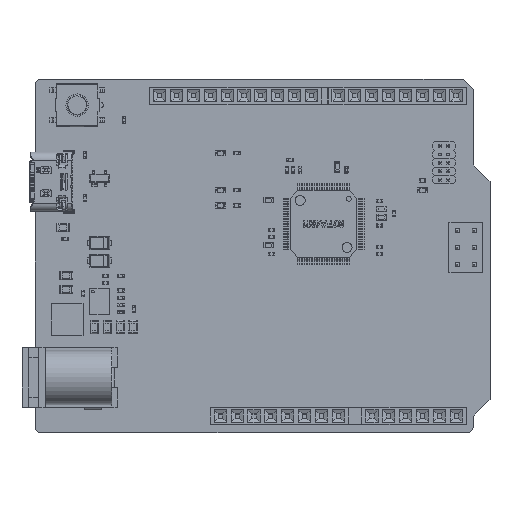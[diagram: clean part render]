
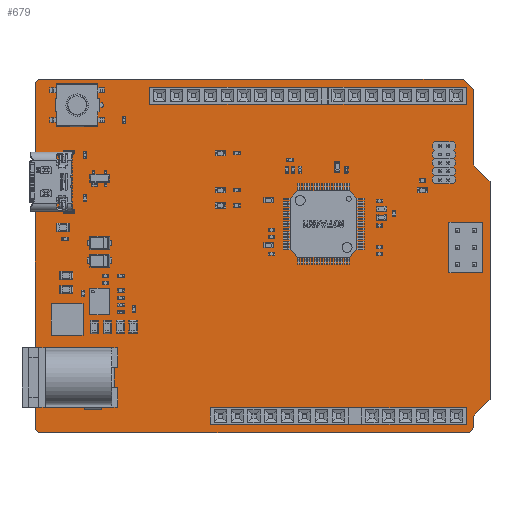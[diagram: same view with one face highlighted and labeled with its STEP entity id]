
A CAD part, top view. The second image highlights one B-rep face of the part: STEP entity #679.
In plain terms, the highlighted planar face has unit normal (0, 0, 1).
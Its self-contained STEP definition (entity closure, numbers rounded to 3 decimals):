
#288 = VERTEX_POINT('',#289);
#289 = CARTESIAN_POINT('',(0.,1.,1.686));
#295 = EDGE_CURVE('',#288,#296,#298,.T.);
#296 = VERTEX_POINT('',#297);
#297 = CARTESIAN_POINT('',(0.,52.34,1.686));
#298 = LINE('',#299,#300);
#299 = CARTESIAN_POINT('',(0.,1.,1.686));
#300 = VECTOR('',#301,1.);
#301 = DIRECTION('',(0.,1.,0.));
#326 = EDGE_CURVE('',#296,#327,#329,.T.);
#327 = VERTEX_POINT('',#328);
#328 = CARTESIAN_POINT('',(1.,53.34,1.686));
#329 = CIRCLE('',#330,1.);
#330 = AXIS2_PLACEMENT_3D('',#331,#332,#333);
#331 = CARTESIAN_POINT('',(1.,52.34,1.686));
#332 = DIRECTION('',(0.,0.,-1.));
#333 = DIRECTION('',(-1.,0.,0.));
#359 = EDGE_CURVE('',#327,#360,#362,.T.);
#360 = VERTEX_POINT('',#361);
#361 = CARTESIAN_POINT('',(64.516,53.34,1.686));
#362 = LINE('',#363,#364);
#363 = CARTESIAN_POINT('',(1.,53.34,1.686));
#364 = VECTOR('',#365,1.);
#365 = DIRECTION('',(1.,0.,0.));
#390 = EDGE_CURVE('',#360,#391,#393,.T.);
#391 = VERTEX_POINT('',#392);
#392 = CARTESIAN_POINT('',(66.04,51.816,1.686));
#393 = LINE('',#394,#395);
#394 = CARTESIAN_POINT('',(64.516,53.34,1.686));
#395 = VECTOR('',#396,1.);
#396 = DIRECTION('',(0.707,-0.707,0.));
#421 = EDGE_CURVE('',#391,#422,#424,.T.);
#422 = VERTEX_POINT('',#423);
#423 = CARTESIAN_POINT('',(66.04,40.386,1.686));
#424 = LINE('',#425,#426);
#425 = CARTESIAN_POINT('',(66.04,51.816,1.686));
#426 = VECTOR('',#427,1.);
#427 = DIRECTION('',(0.,-1.,0.));
#452 = EDGE_CURVE('',#422,#453,#455,.T.);
#453 = VERTEX_POINT('',#454);
#454 = CARTESIAN_POINT('',(68.58,37.846,1.686));
#455 = LINE('',#456,#457);
#456 = CARTESIAN_POINT('',(66.04,40.386,1.686));
#457 = VECTOR('',#458,1.);
#458 = DIRECTION('',(0.707,-0.707,0.));
#483 = EDGE_CURVE('',#453,#484,#486,.T.);
#484 = VERTEX_POINT('',#485);
#485 = CARTESIAN_POINT('',(68.58,5.08,1.686));
#486 = LINE('',#487,#488);
#487 = CARTESIAN_POINT('',(68.58,37.846,1.686));
#488 = VECTOR('',#489,1.);
#489 = DIRECTION('',(0.,-1.,0.));
#514 = EDGE_CURVE('',#484,#515,#517,.T.);
#515 = VERTEX_POINT('',#516);
#516 = CARTESIAN_POINT('',(66.04,2.54,1.686));
#517 = LINE('',#518,#519);
#518 = CARTESIAN_POINT('',(68.58,5.08,1.686));
#519 = VECTOR('',#520,1.);
#520 = DIRECTION('',(-0.707,-0.707,0.));
#545 = EDGE_CURVE('',#515,#546,#548,.T.);
#546 = VERTEX_POINT('',#547);
#547 = CARTESIAN_POINT('',(66.04,1.,1.686));
#548 = LINE('',#549,#550);
#549 = CARTESIAN_POINT('',(66.04,2.54,1.686));
#550 = VECTOR('',#551,1.);
#551 = DIRECTION('',(0.,-1.,0.));
#576 = EDGE_CURVE('',#546,#577,#579,.T.);
#577 = VERTEX_POINT('',#578);
#578 = CARTESIAN_POINT('',(65.04,0.,1.686));
#579 = CIRCLE('',#580,1.);
#580 = AXIS2_PLACEMENT_3D('',#581,#582,#583);
#581 = CARTESIAN_POINT('',(65.04,1.,1.686));
#582 = DIRECTION('',(0.,0.,-1.));
#583 = DIRECTION('',(1.,0.,0.));
#609 = EDGE_CURVE('',#577,#610,#612,.T.);
#610 = VERTEX_POINT('',#611);
#611 = CARTESIAN_POINT('',(1.,0.,1.686));
#612 = LINE('',#613,#614);
#613 = CARTESIAN_POINT('',(65.04,0.,1.686));
#614 = VECTOR('',#615,1.);
#615 = DIRECTION('',(-1.,0.,0.));
#640 = EDGE_CURVE('',#610,#288,#641,.T.);
#641 = CIRCLE('',#642,1.);
#642 = AXIS2_PLACEMENT_3D('',#643,#644,#645);
#643 = CARTESIAN_POINT('',(1.,1.,1.686));
#644 = DIRECTION('',(0.,0.,-1.));
#645 = DIRECTION('',(0.,-1.,-0.));
#679 = ADVANCED_FACE('',(#680),#694,.F.);
#680 = FACE_BOUND('',#681,.F.);
#681 = EDGE_LOOP('',(#682,#683,#684,#685,#686,#687,#688,#689,#690,#691,
    #692,#693));
#682 = ORIENTED_EDGE('',*,*,#295,.T.);
#683 = ORIENTED_EDGE('',*,*,#326,.T.);
#684 = ORIENTED_EDGE('',*,*,#359,.T.);
#685 = ORIENTED_EDGE('',*,*,#390,.T.);
#686 = ORIENTED_EDGE('',*,*,#421,.T.);
#687 = ORIENTED_EDGE('',*,*,#452,.T.);
#688 = ORIENTED_EDGE('',*,*,#483,.T.);
#689 = ORIENTED_EDGE('',*,*,#514,.T.);
#690 = ORIENTED_EDGE('',*,*,#545,.T.);
#691 = ORIENTED_EDGE('',*,*,#576,.T.);
#692 = ORIENTED_EDGE('',*,*,#609,.T.);
#693 = ORIENTED_EDGE('',*,*,#640,.T.);
#694 = PLANE('',#695);
#695 = AXIS2_PLACEMENT_3D('',#696,#697,#698);
#696 = CARTESIAN_POINT('',(33.635,26.573,1.686));
#697 = DIRECTION('',(-0.,-0.,-1.));
#698 = DIRECTION('',(-1.,0.,0.));
